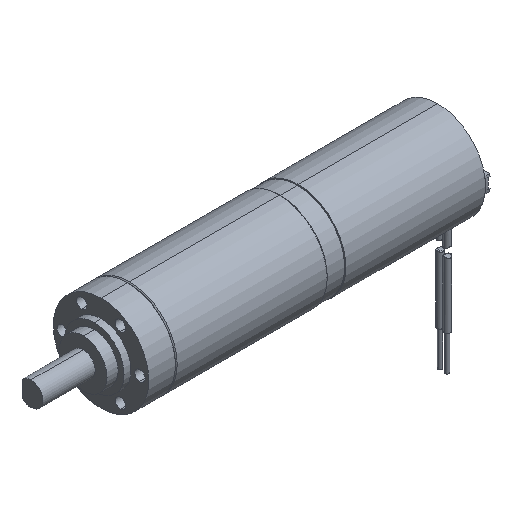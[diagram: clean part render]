
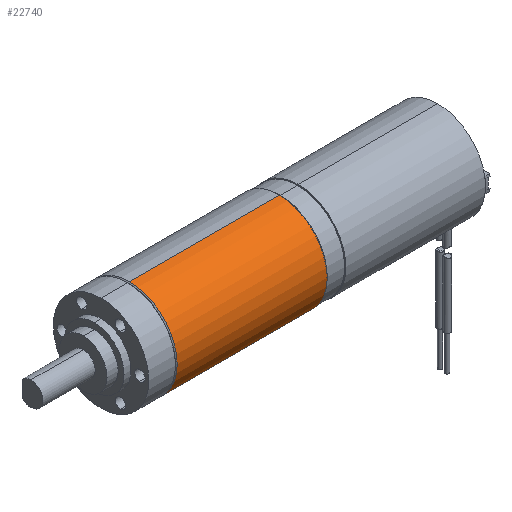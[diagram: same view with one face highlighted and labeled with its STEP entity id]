
A CAD part, isometric view. The second image highlights one B-rep face of the part: STEP entity #22740.
In plain terms, the highlighted cylindrical face has radius 8 mm (diameter 16 mm), a partial arc.
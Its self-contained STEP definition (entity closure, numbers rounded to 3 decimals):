
#20 = VERTEX_POINT ( 'NONE', #20403 ) ;
#638 = DIRECTION ( 'NONE',  ( -1., 0., 0. ) ) ;
#1198 = FACE_OUTER_BOUND ( 'NONE', #37193, .T. ) ;
#3528 = LINE ( 'NONE', #7308, #32486 ) ;
#4219 = EDGE_CURVE ( 'NONE', #32193, #20, #12977, .T. ) ;
#4758 = EDGE_CURVE ( 'NONE', #5505, #45884, #34206, .T. ) ;
#5505 = VERTEX_POINT ( 'NONE', #41307 ) ;
#6671 = ORIENTED_EDGE ( 'NONE', *, *, #4758, .T. ) ;
#7308 = CARTESIAN_POINT ( 'NONE',  ( 2.28, 0., -8. ) ) ;
#8689 = EDGE_CURVE ( 'NONE', #32193, #5505, #33791, .T. ) ;
#9512 = CARTESIAN_POINT ( 'NONE',  ( -3.95, 0., 0. ) ) ;
#11686 = CARTESIAN_POINT ( 'NONE',  ( 2.28, 0., 0. ) ) ;
#12409 = AXIS2_PLACEMENT_3D ( 'NONE', #11686, #638, #23275 ) ;
#12977 = CIRCLE ( 'NONE', #30397, 8. ) ;
#13243 = DIRECTION ( 'NONE',  ( 1., 0., 0. ) ) ;
#13295 = DIRECTION ( 'NONE',  ( 0., 0., 1. ) ) ;
#19359 = EDGE_CURVE ( 'NONE', #20, #45884, #3528, .T. ) ;
#19966 = AXIS2_PLACEMENT_3D ( 'NONE', #35874, #13243, #39630 ) ;
#20099 = CYLINDRICAL_SURFACE ( 'NONE', #12409, 8. ) ;
#20403 = CARTESIAN_POINT ( 'NONE',  ( -3.95, 0., -8. ) ) ;
#21375 = VECTOR ( 'NONE', #47164, 1000. ) ;
#21599 = ORIENTED_EDGE ( 'NONE', *, *, #8689, .T. ) ;
#22740 = ADVANCED_FACE ( 'NONE', ( #1198 ), #20099, .T. ) ;
#23275 = DIRECTION ( 'NONE',  ( 0., 0., 1. ) ) ;
#25608 = ORIENTED_EDGE ( 'NONE', *, *, #4219, .F. ) ;
#28420 = CARTESIAN_POINT ( 'NONE',  ( 2.28, 0., 8. ) ) ;
#29971 = DIRECTION ( 'NONE',  ( -1., 0., 0. ) ) ;
#30397 = AXIS2_PLACEMENT_3D ( 'NONE', #9512, #35935, #13295 ) ;
#30933 = CARTESIAN_POINT ( 'NONE',  ( -3.95, 0., 8. ) ) ;
#32193 = VERTEX_POINT ( 'NONE', #30933 ) ;
#32486 = VECTOR ( 'NONE', #29971, 1000. ) ;
#33791 = LINE ( 'NONE', #28420, #21375 ) ;
#34206 = CIRCLE ( 'NONE', #19966, 8. ) ;
#35874 = CARTESIAN_POINT ( 'NONE',  ( -29.1, 0., 0. ) ) ;
#35935 = DIRECTION ( 'NONE',  ( 1., 0., 0. ) ) ;
#37193 = EDGE_LOOP ( 'NONE', ( #43794, #25608, #21599, #6671 ) ) ;
#39630 = DIRECTION ( 'NONE',  ( 0., 0., 1. ) ) ;
#41307 = CARTESIAN_POINT ( 'NONE',  ( -29.1, 0., 8. ) ) ;
#41376 = CARTESIAN_POINT ( 'NONE',  ( -29.1, 0., -8. ) ) ;
#43794 = ORIENTED_EDGE ( 'NONE', *, *, #19359, .F. ) ;
#45884 = VERTEX_POINT ( 'NONE', #41376 ) ;
#47164 = DIRECTION ( 'NONE',  ( -1., 0., 0. ) ) ;
